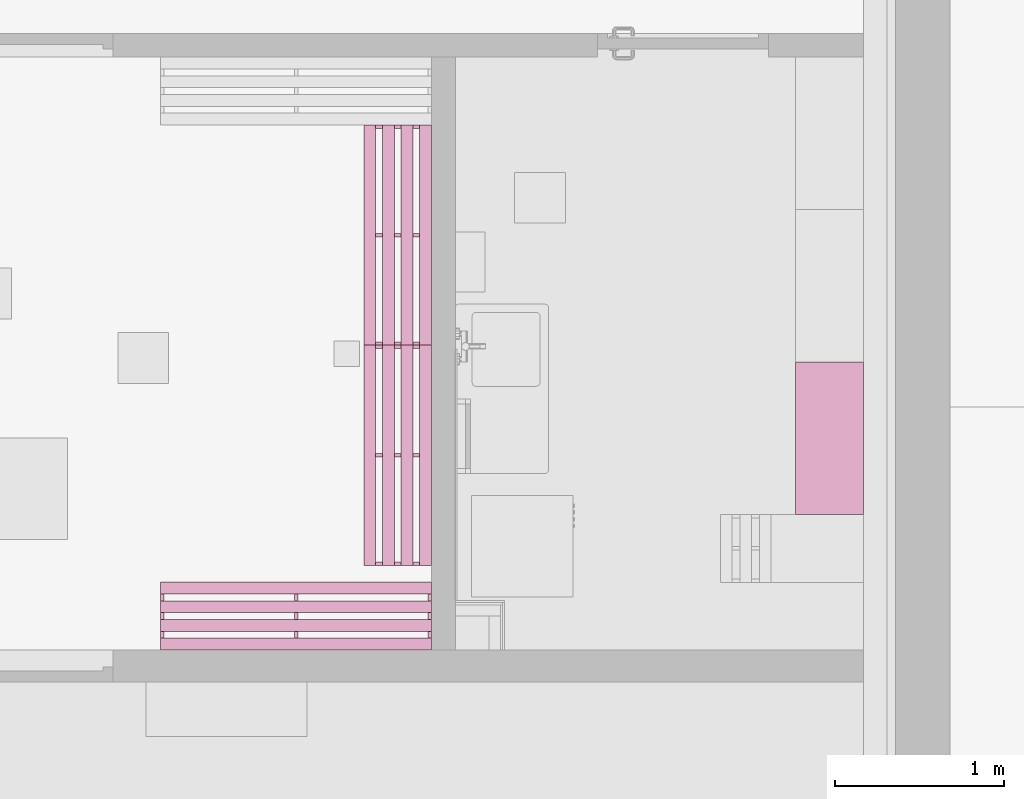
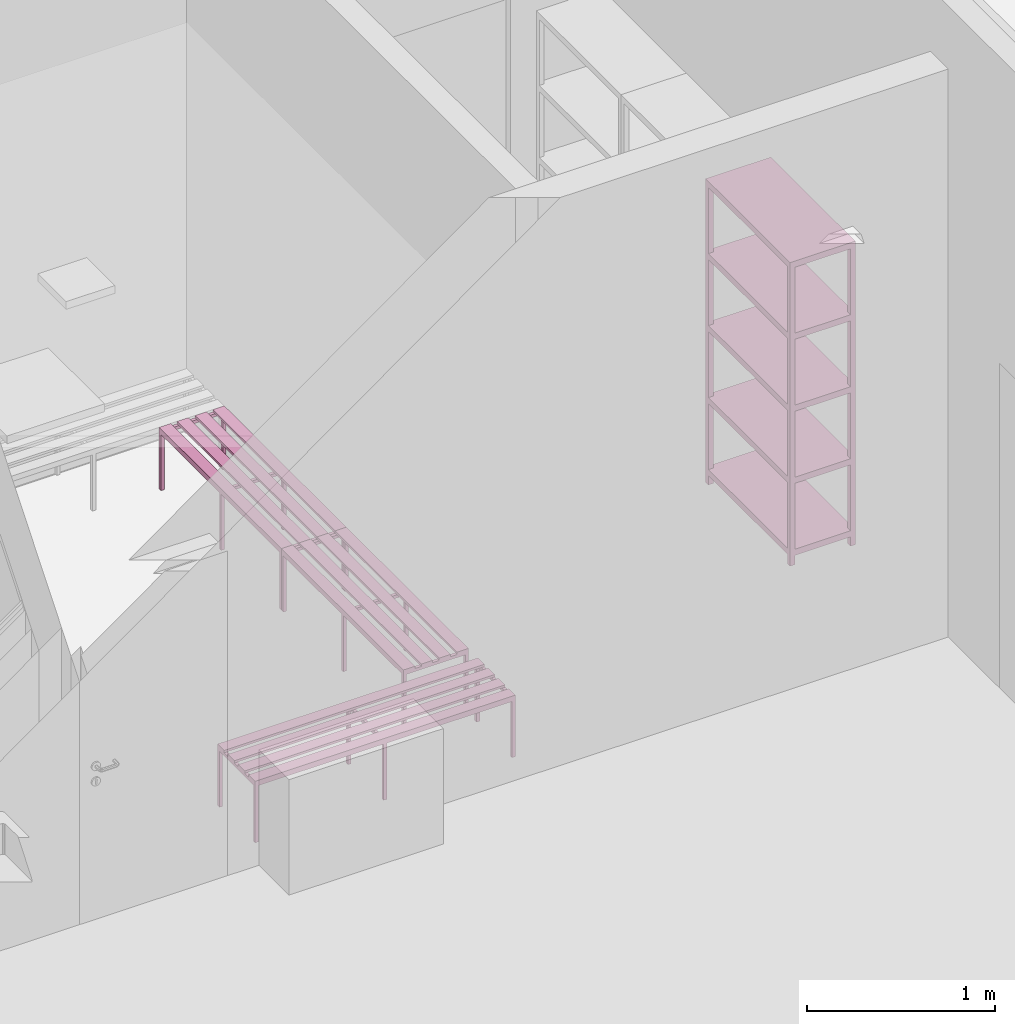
# One storey, part 278 of 301: 4 furnishings.
"""IFC2X3 building model written with IfcOpenShell, lengths in millimetres."""

from ifc_helpers import new_model, entity, si_unit, converted_unit, derived_unit, money_unit, direction, frame, origin_with_axes, place, context, subcontext, project, spatial, faceted_brep, source, transform, mapped, type_object, element, save


model = new_model("IFC2X3")

# Units and contexts
model_context = context("Model", 3, precision=0.01, world=origin_with_axes(), true_north=direction((0.0, 1.0)))
body_context = subcontext(model_context, "Body", "Model", "MODEL_VIEW")
ifc_project = project(units=[si_unit("LENGTHUNIT", "METRE", prefix="MILLI"), si_unit("AREAUNIT", "SQUARE_METRE"), si_unit("VOLUMEUNIT", "CUBIC_METRE"), converted_unit("PLANEANGLEUNIT", "DEGREE", entity("IfcPlaneAngleMeasure", 0.0174532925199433), si_unit("PLANEANGLEUNIT", "RADIAN"), dimensions=[0, 0, 0, 0, 0, 0, 0]), money_unit("EUR"), converted_unit("TIMEUNIT", "Year", entity("IfcTimeMeasure", 31557600.0), si_unit("TIMEUNIT", "SECOND"), dimensions=[0, 0, 1, 0, 0, 0, 0]), si_unit("MASSUNIT", "GRAM", prefix="KILO"), si_unit("THERMODYNAMICTEMPERATUREUNIT", "DEGREE_CELSIUS"), si_unit("LUMINOUSINTENSITYUNIT", "LUMEN"), si_unit("ENERGYUNIT", "JOULE", prefix="MEGA"), derived_unit("THERMALCONDUCTANCEUNIT", [(si_unit("POWERUNIT", "WATT"), 1), (si_unit("LENGTHUNIT", "METRE"), -1), (si_unit("THERMODYNAMICTEMPERATUREUNIT", "KELVIN"), -1)]), derived_unit("SPECIFICHEATCAPACITYUNIT", [(si_unit("ENERGYUNIT", "JOULE"), 1), (si_unit("MASSUNIT", "GRAM", prefix="KILO"), -1), (si_unit("THERMODYNAMICTEMPERATUREUNIT", "KELVIN"), -1)]), derived_unit("MASSDENSITYUNIT", [(si_unit("MASSUNIT", "GRAM", prefix="KILO"), 1), (si_unit("VOLUMEUNIT", "CUBIC_METRE"), -1)])], contexts=[model_context])

# Site, building, storey
site_placement = place(None, frame((0.0, 0.0, 8650.0), z_axis=(0.0, 0.0, 1.0), x_axis=(1.0, 0.0, 0.0)))
site = spatial("IfcSite", under=ifc_project, at=site_placement, Name="43301:001:0844", CompositionType="ELEMENT")
building_placement = place(site_placement, origin_with_axes())
building = spatial("IfcBuilding", under=site, at=building_placement, Name="Kuressaare Ametikooli tuulikute mehaanikute õppekorpus", CompositionType="ELEMENT")
storey_placement = place(building_placement, origin_with_axes())
storey = spatial("IfcBuildingStorey", under=building, at=storey_placement, Name="1.korrus", CompositionType="ELEMENT", Elevation=0.0)

# Furnishings
furniture_type_1 = type_object("IfcFurnitureType", Name="Bookshelf 02 27", AssemblyPlace="NOTDEFINED")
shared_shape_1 = source(origin_with_axes(), body_context, "Body", "Brep", [
    faceted_brep([(-30.0, 0.0, 0.0), (-30.0, 30.0, 0.0), (0.0, 30.0, 0.0), (0.0, 0.0, 0.0), (-30.0, 0.0, 1952.0), (-30.0, 30.0, 1952.0), (0.0, 30.0, 1952.0), (0.0, 0.0, 1952.0)], [[[0, 1, 2, 3]], [[0, 4, 5, 1]], [[1, 5, 6, 2]], [[2, 6, 7, 3]], [[3, 7, 4, 0]], [[7, 6, 5, 4]]]),
    faceted_brep([(-900.0000000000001, 0.0, 0.0), (-900.0000000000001, 30.0, 0.0), (-870.0000000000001, 30.0, 0.0), (-870.0000000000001, 0.0, 0.0), (-900.0000000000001, 0.0, 1952.0), (-900.0000000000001, 30.0, 1952.0), (-870.0000000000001, 30.0, 1952.0), (-870.0000000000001, 0.0, 1952.0)], [[[0, 1, 2, 3]], [[0, 4, 5, 1]], [[1, 5, 6, 2]], [[2, 6, 7, 3]], [[3, 7, 4, 0]], [[7, 6, 5, 4]]]),
    faceted_brep([(-30.0, 370.0, 0.0), (-30.0, 400.0, 0.0), (0.0, 400.0, 0.0), (0.0, 370.0, 0.0), (-30.0, 370.0, 1952.0), (-30.0, 400.0, 1952.0), (0.0, 400.0, 1952.0), (0.0, 370.0, 1952.0)], [[[0, 1, 2, 3]], [[0, 4, 5, 1]], [[1, 5, 6, 2]], [[2, 6, 7, 3]], [[3, 7, 4, 0]], [[7, 6, 5, 4]]]),
    faceted_brep([(-900.0000000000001, 370.0, 0.0), (-900.0000000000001, 400.0, 0.0), (-870.0000000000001, 400.0, 0.0), (-870.0000000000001, 370.0, 0.0), (-900.0000000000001, 370.0, 1952.0), (-900.0000000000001, 400.0, 1952.0), (-870.0000000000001, 400.0, 1952.0), (-870.0000000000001, 370.0, 1952.0)], [[[0, 1, 2, 3]], [[0, 4, 5, 1]], [[1, 5, 6, 2]], [[2, 6, 7, 3]], [[3, 7, 4, 0]], [[7, 6, 5, 4]]]),
    faceted_brep([(-30.0, 30.0, 60.0), (-30.0, 370.0, 60.0), (0.0, 370.0, 60.0), (0.0, 30.0, 60.0), (-30.0, 30.0, 80.0), (-30.0, 370.0, 80.0), (0.0, 370.0, 80.0), (0.0, 30.0, 80.0)], [[[0, 1, 2, 3]], [[0, 4, 5, 1]], [[1, 5, 6, 2]], [[2, 6, 7, 3]], [[3, 7, 4, 0]], [[7, 6, 5, 4]]]),
    faceted_brep([(-900.0000000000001, 30.0, 60.0), (-900.0000000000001, 370.0, 60.0), (-870.0000000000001, 370.0, 60.0), (-870.0000000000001, 30.0, 60.0), (-900.0000000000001, 30.0, 80.0), (-900.0000000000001, 370.0, 80.0), (-870.0000000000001, 370.0, 80.0), (-870.0000000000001, 30.0, 80.0)], [[[0, 1, 2, 3]], [[0, 4, 5, 1]], [[1, 5, 6, 2]], [[2, 6, 7, 3]], [[3, 7, 4, 0]], [[7, 6, 5, 4]]]),
    faceted_brep([(-870.0000000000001, 0.0, 60.0), (-870.0000000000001, 30.0, 60.0), (-30.0, 30.0, 60.0), (-30.0, 0.0, 60.0), (-870.0000000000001, 0.0, 80.0), (-870.0000000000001, 30.0, 80.0), (-30.0, 30.0, 80.0), (-30.0, 0.0, 80.0)], [[[0, 1, 2, 3]], [[0, 4, 5, 1]], [[1, 5, 6, 2]], [[2, 6, 7, 3]], [[3, 7, 4, 0]], [[7, 6, 5, 4]]]),
    faceted_brep([(-870.0000000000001, 370.0, 60.0), (-870.0000000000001, 400.0, 60.0), (-30.0, 400.0, 60.0), (-30.0, 370.0, 60.0), (-870.0000000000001, 370.0, 80.0), (-870.0000000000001, 400.0, 80.0), (-30.0, 400.0, 80.0), (-30.0, 370.0, 80.0)], [[[0, 1, 2, 3]], [[0, 4, 5, 1]], [[1, 5, 6, 2]], [[2, 6, 7, 3]], [[3, 7, 4, 0]], [[7, 6, 5, 4]]]),
    faceted_brep([(-30.0, 30.0, 528.0), (-30.0, 370.0, 528.0), (0.0, 370.0, 528.0), (0.0, 30.0, 528.0), (-30.0, 30.0, 548.0), (-30.0, 370.0, 548.0), (0.0, 370.0, 548.0), (0.0, 30.0, 548.0)], [[[0, 1, 2, 3]], [[0, 4, 5, 1]], [[1, 5, 6, 2]], [[2, 6, 7, 3]], [[3, 7, 4, 0]], [[7, 6, 5, 4]]]),
    faceted_brep([(-900.0000000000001, 30.0, 528.0), (-900.0000000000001, 370.0, 528.0), (-870.0000000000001, 370.0, 528.0), (-870.0000000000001, 30.0, 528.0), (-900.0000000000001, 30.0, 548.0), (-900.0000000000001, 370.0, 548.0), (-870.0000000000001, 370.0, 548.0), (-870.0000000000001, 30.0, 548.0)], [[[0, 1, 2, 3]], [[0, 4, 5, 1]], [[1, 5, 6, 2]], [[2, 6, 7, 3]], [[3, 7, 4, 0]], [[7, 6, 5, 4]]]),
    faceted_brep([(-870.0000000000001, 0.0, 528.0), (-870.0000000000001, 30.0, 528.0), (-30.0, 30.0, 528.0), (-30.0, 0.0, 528.0), (-870.0000000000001, 0.0, 548.0), (-870.0000000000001, 30.0, 548.0), (-30.0, 30.0, 548.0), (-30.0, 0.0, 548.0)], [[[0, 1, 2, 3]], [[0, 4, 5, 1]], [[1, 5, 6, 2]], [[2, 6, 7, 3]], [[3, 7, 4, 0]], [[7, 6, 5, 4]]]),
    faceted_brep([(-870.0000000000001, 370.0, 528.0), (-870.0000000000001, 400.0, 528.0), (-30.0, 400.0, 528.0), (-30.0, 370.0, 528.0), (-870.0000000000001, 370.0, 548.0), (-870.0000000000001, 400.0, 548.0), (-30.0, 400.0, 548.0), (-30.0, 370.0, 548.0)], [[[0, 1, 2, 3]], [[0, 4, 5, 1]], [[1, 5, 6, 2]], [[2, 6, 7, 3]], [[3, 7, 4, 0]], [[7, 6, 5, 4]]]),
    faceted_brep([(-30.0, 30.0, 996.0), (-30.0, 370.0, 996.0), (0.0, 370.0, 996.0), (0.0, 30.0, 996.0), (-30.0, 30.0, 1016.0), (-30.0, 370.0, 1016.0), (0.0, 370.0, 1016.0), (0.0, 30.0, 1016.0)], [[[0, 1, 2, 3]], [[0, 4, 5, 1]], [[1, 5, 6, 2]], [[2, 6, 7, 3]], [[3, 7, 4, 0]], [[7, 6, 5, 4]]]),
    faceted_brep([(-900.0000000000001, 30.0, 996.0), (-900.0000000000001, 370.0, 996.0), (-870.0000000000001, 370.0, 996.0), (-870.0000000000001, 30.0, 996.0), (-900.0000000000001, 30.0, 1016.0), (-900.0000000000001, 370.0, 1016.0), (-870.0000000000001, 370.0, 1016.0), (-870.0000000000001, 30.0, 1016.0)], [[[0, 1, 2, 3]], [[0, 4, 5, 1]], [[1, 5, 6, 2]], [[2, 6, 7, 3]], [[3, 7, 4, 0]], [[7, 6, 5, 4]]]),
    faceted_brep([(-870.0000000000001, 0.0, 996.0), (-870.0000000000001, 30.0, 996.0), (-30.0, 30.0, 996.0), (-30.0, 0.0, 996.0), (-870.0000000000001, 0.0, 1016.0), (-870.0000000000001, 30.0, 1016.0), (-30.0, 30.0, 1016.0), (-30.0, 0.0, 1016.0)], [[[0, 1, 2, 3]], [[0, 4, 5, 1]], [[1, 5, 6, 2]], [[2, 6, 7, 3]], [[3, 7, 4, 0]], [[7, 6, 5, 4]]]),
    faceted_brep([(-870.0000000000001, 370.0, 996.0), (-870.0000000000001, 400.0, 996.0), (-30.0, 400.0, 996.0), (-30.0, 370.0, 996.0), (-870.0000000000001, 370.0, 1016.0), (-870.0000000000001, 400.0, 1016.0), (-30.0, 400.0, 1016.0), (-30.0, 370.0, 1016.0)], [[[0, 1, 2, 3]], [[0, 4, 5, 1]], [[1, 5, 6, 2]], [[2, 6, 7, 3]], [[3, 7, 4, 0]], [[7, 6, 5, 4]]]),
    faceted_brep([(-30.0, 30.0, 1464.0), (-30.0, 370.0, 1464.0), (0.0, 370.0, 1464.0), (0.0, 30.0, 1464.0), (-30.0, 30.0, 1484.0), (-30.0, 370.0, 1484.0), (0.0, 370.0, 1484.0), (0.0, 30.0, 1484.0)], [[[0, 1, 2, 3]], [[0, 4, 5, 1]], [[1, 5, 6, 2]], [[2, 6, 7, 3]], [[3, 7, 4, 0]], [[7, 6, 5, 4]]]),
    faceted_brep([(-900.0000000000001, 30.0, 1464.0), (-900.0000000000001, 370.0, 1464.0), (-870.0000000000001, 370.0, 1464.0), (-870.0000000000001, 30.0, 1464.0), (-900.0000000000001, 30.0, 1484.0), (-900.0000000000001, 370.0, 1484.0), (-870.0000000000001, 370.0, 1484.0), (-870.0000000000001, 30.0, 1484.0)], [[[0, 1, 2, 3]], [[0, 4, 5, 1]], [[1, 5, 6, 2]], [[2, 6, 7, 3]], [[3, 7, 4, 0]], [[7, 6, 5, 4]]]),
    faceted_brep([(-870.0000000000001, 0.0, 1464.0), (-870.0000000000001, 30.0, 1464.0), (-30.0, 30.0, 1464.0), (-30.0, 0.0, 1464.0), (-870.0000000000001, 0.0, 1484.0), (-870.0000000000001, 30.0, 1484.0), (-30.0, 30.0, 1484.0), (-30.0, 0.0, 1484.0)], [[[0, 1, 2, 3]], [[0, 4, 5, 1]], [[1, 5, 6, 2]], [[2, 6, 7, 3]], [[3, 7, 4, 0]], [[7, 6, 5, 4]]]),
    faceted_brep([(-870.0000000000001, 370.0, 1464.0), (-870.0000000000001, 400.0, 1464.0), (-30.0, 400.0, 1464.0), (-30.0, 370.0, 1464.0), (-870.0000000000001, 370.0, 1484.0), (-870.0000000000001, 400.0, 1484.0), (-30.0, 400.0, 1484.0), (-30.0, 370.0, 1484.0)], [[[0, 1, 2, 3]], [[0, 4, 5, 1]], [[1, 5, 6, 2]], [[2, 6, 7, 3]], [[3, 7, 4, 0]], [[7, 6, 5, 4]]]),
    faceted_brep([(-30.0, 30.0, 1932.0), (-30.0, 370.0, 1932.0), (0.0, 370.0, 1932.0), (0.0, 30.0, 1932.0), (-30.0, 30.0, 1952.0), (-30.0, 370.0, 1952.0), (0.0, 370.0, 1952.0), (0.0, 30.0, 1952.0)], [[[0, 1, 2, 3]], [[0, 4, 5, 1]], [[1, 5, 6, 2]], [[2, 6, 7, 3]], [[3, 7, 4, 0]], [[7, 6, 5, 4]]]),
    faceted_brep([(-900.0000000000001, 30.0, 1932.0), (-900.0000000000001, 370.0, 1932.0), (-870.0000000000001, 370.0, 1932.0), (-870.0000000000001, 30.0, 1932.0), (-900.0000000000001, 30.0, 1952.0), (-900.0000000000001, 370.0, 1952.0), (-870.0000000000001, 370.0, 1952.0), (-870.0000000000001, 30.0, 1952.0)], [[[0, 1, 2, 3]], [[0, 4, 5, 1]], [[1, 5, 6, 2]], [[2, 6, 7, 3]], [[3, 7, 4, 0]], [[7, 6, 5, 4]]]),
    faceted_brep([(-870.0000000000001, 0.0, 1932.0), (-870.0000000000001, 30.0, 1932.0), (-30.0, 30.0, 1932.0), (-30.0, 0.0, 1932.0), (-870.0000000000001, 0.0, 1952.0), (-870.0000000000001, 30.0, 1952.0), (-30.0, 30.0, 1952.0), (-30.0, 0.0, 1952.0)], [[[0, 1, 2, 3]], [[0, 4, 5, 1]], [[1, 5, 6, 2]], [[2, 6, 7, 3]], [[3, 7, 4, 0]], [[7, 6, 5, 4]]]),
    faceted_brep([(-870.0000000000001, 370.0, 1932.0), (-870.0000000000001, 400.0, 1932.0), (-30.0, 400.0, 1932.0), (-30.0, 370.0, 1932.0), (-870.0000000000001, 370.0, 1952.0), (-870.0000000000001, 400.0, 1952.0), (-30.0, 400.0, 1952.0), (-30.0, 370.0, 1952.0)], [[[0, 1, 2, 3]], [[0, 4, 5, 1]], [[1, 5, 6, 2]], [[2, 6, 7, 3]], [[3, 7, 4, 0]], [[7, 6, 5, 4]]]),
    faceted_brep([(-900.0, 0.0, 1952.0), (-900.0, 400.0, 1952.0), (0.0, 400.0, 1952.0), (0.0, 0.0, 1952.0), (-900.0, 0.0, 1972.0), (-900.0, 400.0, 1972.0), (0.0, 400.0, 1972.0), (0.0, 0.0, 1972.0)], [[[0, 1, 2, 3]], [[0, 4, 5, 1]], [[1, 5, 6, 2]], [[2, 6, 7, 3]], [[3, 7, 4, 0]], [[7, 6, 5, 4]]]),
    faceted_brep([(0.0, 30.0, 80.0), (0.0, 30.0, 100.0), (-30.0, 30.0, 100.0), (-30.0, 30.0, 80.0), (0.0, 370.0, 80.0), (0.0, 370.0, 100.0), (-30.0, 370.0, 100.0), (-30.0, 400.0, 100.0), (-870.0, 400.0, 100.0), (-870.0, 370.0, 100.0), (-900.0, 370.0, 100.0), (-900.0, 30.0, 100.0), (-870.0, 30.0, 100.0), (-870.0, 0.0, 100.0), (-30.0, 0.0, 100.0), (-30.0, 0.0, 80.0), (-870.0, 0.0, 80.0), (-870.0, 30.0, 80.0), (-900.0, 30.0, 80.0), (-900.0, 370.0, 80.0), (-870.0, 370.0, 80.0), (-870.0, 400.0, 80.0), (-30.0, 400.0, 80.0), (-30.0, 370.0, 80.0)], [[[0, 1, 2, 3]], [[4, 5, 1, 0]], [[1, 5, 6, 7, 8, 9, 10, 11, 12, 13, 14, 2]], [[3, 2, 14, 15]], [[0, 3, 15, 16, 17, 18, 19, 20, 21, 22, 23, 4]], [[23, 6, 5, 4]], [[22, 7, 6, 23]], [[21, 8, 7, 22]], [[20, 9, 8, 21]], [[19, 10, 9, 20]], [[18, 11, 10, 19]], [[17, 12, 11, 18]], [[16, 13, 12, 17]], [[15, 14, 13, 16]]]),
    faceted_brep([(0.0, 30.0, 547.9999999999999), (0.0, 30.0, 568.0), (-30.0, 30.0, 568.0), (-30.0, 30.0, 547.9999999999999), (0.0, 370.0, 547.9999999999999), (0.0, 370.0, 568.0), (-30.0, 370.0, 568.0), (-30.0, 400.0, 568.0), (-870.0, 400.0, 568.0), (-870.0, 370.0, 568.0), (-900.0, 370.0, 568.0), (-900.0, 30.0, 568.0), (-870.0, 30.0, 568.0), (-870.0, 0.0, 568.0), (-30.0, 0.0, 568.0), (-30.0, 0.0, 547.9999999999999), (-870.0, 0.0, 547.9999999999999), (-870.0, 30.0, 547.9999999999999), (-900.0, 30.0, 547.9999999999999), (-900.0, 370.0, 547.9999999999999), (-870.0, 370.0, 547.9999999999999), (-870.0, 400.0, 547.9999999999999), (-30.0, 400.0, 547.9999999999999), (-30.0, 370.0, 547.9999999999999)], [[[0, 1, 2, 3]], [[4, 5, 1, 0]], [[1, 5, 6, 7, 8, 9, 10, 11, 12, 13, 14, 2]], [[3, 2, 14, 15]], [[0, 3, 15, 16, 17, 18, 19, 20, 21, 22, 23, 4]], [[23, 6, 5, 4]], [[22, 7, 6, 23]], [[21, 8, 7, 22]], [[20, 9, 8, 21]], [[19, 10, 9, 20]], [[18, 11, 10, 19]], [[17, 12, 11, 18]], [[16, 13, 12, 17]], [[15, 14, 13, 16]]]),
    faceted_brep([(0.0, 30.0, 1016.0), (0.0, 30.0, 1036.0), (-30.0, 30.0, 1036.0), (-30.0, 30.0, 1016.0), (0.0, 370.0, 1016.0), (0.0, 370.0, 1036.0), (-30.0, 370.0, 1036.0), (-30.0, 400.0, 1036.0), (-870.0, 400.0, 1036.0), (-870.0, 370.0, 1036.0), (-900.0, 370.0, 1036.0), (-900.0, 30.0, 1036.0), (-870.0, 30.0, 1036.0), (-870.0, 0.0, 1036.0), (-30.0, 0.0, 1036.0), (-30.0, 0.0, 1016.0), (-870.0, 0.0, 1016.0), (-870.0, 30.0, 1016.0), (-900.0, 30.0, 1016.0), (-900.0, 370.0, 1016.0), (-870.0, 370.0, 1016.0), (-870.0, 400.0, 1016.0), (-30.0, 400.0, 1016.0), (-30.0, 370.0, 1016.0)], [[[0, 1, 2, 3]], [[4, 5, 1, 0]], [[1, 5, 6, 7, 8, 9, 10, 11, 12, 13, 14, 2]], [[3, 2, 14, 15]], [[0, 3, 15, 16, 17, 18, 19, 20, 21, 22, 23, 4]], [[23, 6, 5, 4]], [[22, 7, 6, 23]], [[21, 8, 7, 22]], [[20, 9, 8, 21]], [[19, 10, 9, 20]], [[18, 11, 10, 19]], [[17, 12, 11, 18]], [[16, 13, 12, 17]], [[15, 14, 13, 16]]]),
    faceted_brep([(0.0, 30.0, 1484.0), (0.0, 30.0, 1504.0), (-30.0, 30.0, 1504.0), (-30.0, 30.0, 1484.0), (0.0, 370.0, 1484.0), (0.0, 370.0, 1504.0), (-30.0, 370.0, 1504.0), (-30.0, 400.0, 1504.0), (-870.0, 400.0, 1504.0), (-870.0, 370.0, 1504.0), (-900.0, 370.0, 1504.0), (-900.0, 30.0, 1504.0), (-870.0, 30.0, 1504.0), (-870.0, 0.0, 1504.0), (-30.0, 0.0, 1504.0), (-30.0, 0.0, 1484.0), (-870.0, 0.0, 1484.0), (-870.0, 30.0, 1484.0), (-900.0, 30.0, 1484.0), (-900.0, 370.0, 1484.0), (-870.0, 370.0, 1484.0), (-870.0, 400.0, 1484.0), (-30.0, 400.0, 1484.0), (-30.0, 370.0, 1484.0)], [[[0, 1, 2, 3]], [[4, 5, 1, 0]], [[1, 5, 6, 7, 8, 9, 10, 11, 12, 13, 14, 2]], [[3, 2, 14, 15]], [[0, 3, 15, 16, 17, 18, 19, 20, 21, 22, 23, 4]], [[23, 6, 5, 4]], [[22, 7, 6, 23]], [[21, 8, 7, 22]], [[20, 9, 8, 21]], [[19, 10, 9, 20]], [[18, 11, 10, 19]], [[17, 12, 11, 18]], [[16, 13, 12, 17]], [[15, 14, 13, 16]]]),
])
furnishing_1_placement = place(storey_placement, frame((133024.9464416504, 21774.06892395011, 0.0), z_axis=(0.0, 0.0, 1.0), x_axis=(0.0, 1.0, 0.0)))
element("IfcFurnishingElement", 1, at=furnishing_1_placement, inside=storey, type_object=furniture_type_1, Name="R49", context=body_context, shape_type="MappedRepresentation", body=[
    mapped(shared_shape_1, transform((0.0, 0.0, 0.0))),
])
furniture_type_2 = type_object("IfcFurnitureType", Name="Bench 27", AssemblyPlace="NOTDEFINED")
shared_shape_2 = source(origin_with_axes(), body_context, "Body", "Brep", [
    faceted_brep([(20.0, 0.0, 0.0), (0.0, 0.0, 0.0), (0.0, 20.0, 0.0), (20.0, 20.0, 0.0), (20.0, 0.0, 385.0), (0.0, 0.0, 385.0), (0.0, 20.0, 385.0), (20.0, 20.0, 385.0)], [[[0, 1, 2, 3]], [[1, 0, 4, 5]], [[2, 1, 5, 6]], [[3, 2, 6, 7]], [[0, 3, 7, 4]], [[5, 4, 7, 6]]]),
    faceted_brep([(20.0, 380.0, 0.0), (0.0, 380.0, 0.0), (0.0, 400.0, 0.0), (20.0, 400.0, 0.0), (20.0, 380.0, 385.0), (0.0, 380.0, 385.0), (0.0, 400.0, 385.0), (20.0, 400.0, 385.0)], [[[0, 1, 2, 3]], [[1, 0, 4, 5]], [[2, 1, 5, 6]], [[3, 2, 6, 7]], [[0, 3, 7, 4]], [[5, 4, 7, 6]]]),
    faceted_brep([(1600.000000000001, 0.0, 0.0), (1580.000000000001, 0.0, 0.0), (1580.000000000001, 20.0, 0.0), (1600.000000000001, 20.0, 0.0), (1600.000000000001, 0.0, 385.0), (1580.000000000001, 0.0, 385.0), (1580.000000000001, 20.0, 385.0), (1600.000000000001, 20.0, 385.0)], [[[0, 1, 2, 3]], [[1, 0, 4, 5]], [[2, 1, 5, 6]], [[3, 2, 6, 7]], [[0, 3, 7, 4]], [[5, 4, 7, 6]]]),
    faceted_brep([(1600.000000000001, 380.0, 0.0), (1580.000000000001, 380.0, 0.0), (1580.000000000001, 400.0, 0.0), (1600.000000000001, 400.0, 0.0), (1600.000000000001, 380.0, 385.0), (1580.000000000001, 380.0, 385.0), (1580.000000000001, 400.0, 385.0), (1600.000000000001, 400.0, 385.0)], [[[0, 1, 2, 3]], [[1, 0, 4, 5]], [[2, 1, 5, 6]], [[3, 2, 6, 7]], [[0, 3, 7, 4]], [[5, 4, 7, 6]]]),
    faceted_brep([(810.0000000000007, 0.0, 0.0), (790.0000000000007, 0.0, 0.0), (790.0000000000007, 20.0, 0.0), (810.0000000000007, 20.0, 0.0), (810.0000000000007, 0.0, 385.0), (790.0000000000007, 0.0, 385.0), (790.0000000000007, 20.0, 385.0), (810.0000000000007, 20.0, 385.0)], [[[0, 1, 2, 3]], [[1, 0, 4, 5]], [[2, 1, 5, 6]], [[3, 2, 6, 7]], [[0, 3, 7, 4]], [[5, 4, 7, 6]]]),
    faceted_brep([(810.0000000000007, 380.0, 0.0), (790.0000000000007, 380.0, 0.0), (790.0000000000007, 400.0, 0.0), (810.0000000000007, 400.0, 0.0), (810.0000000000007, 380.0, 385.0), (790.0000000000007, 380.0, 385.0), (790.0000000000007, 400.0, 385.0), (810.0000000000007, 400.0, 385.0)], [[[0, 1, 2, 3]], [[1, 0, 4, 5]], [[2, 1, 5, 6]], [[3, 2, 6, 7]], [[0, 3, 7, 4]], [[5, 4, 7, 6]]]),
    faceted_brep([(790.0000000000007, 0.0, 365.0000000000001), (20.0, 0.0, 365.0000000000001), (20.0, 20.0, 365.0000000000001), (790.0000000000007, 20.0, 365.0000000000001), (790.0000000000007, 0.0, 385.0000000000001), (20.0, 0.0, 385.0000000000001), (20.0, 20.0, 385.0000000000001), (790.0000000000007, 20.0, 385.0000000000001)], [[[0, 1, 2, 3]], [[1, 0, 4, 5]], [[2, 1, 5, 6]], [[3, 2, 6, 7]], [[0, 3, 7, 4]], [[5, 4, 7, 6]]]),
    faceted_brep([(1580.000000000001, 0.0, 365.0000000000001), (810.0000000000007, 0.0, 365.0000000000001), (810.0000000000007, 20.0, 365.0000000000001), (1580.000000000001, 20.0, 365.0000000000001), (1580.000000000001, 0.0, 385.0000000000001), (810.0000000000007, 0.0, 385.0000000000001), (810.0000000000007, 20.0, 385.0000000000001), (1580.000000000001, 20.0, 385.0000000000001)], [[[0, 1, 2, 3]], [[1, 0, 4, 5]], [[2, 1, 5, 6]], [[3, 2, 6, 7]], [[0, 3, 7, 4]], [[5, 4, 7, 6]]]),
    faceted_brep([(790.0000000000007, 380.0, 365.0000000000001), (20.0, 380.0, 365.0000000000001), (20.0, 400.0, 365.0000000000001), (790.0000000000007, 400.0, 365.0000000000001), (790.0000000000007, 380.0, 385.0000000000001), (20.0, 380.0, 385.0000000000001), (20.0, 400.0, 385.0000000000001), (790.0000000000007, 400.0, 385.0000000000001)], [[[0, 1, 2, 3]], [[1, 0, 4, 5]], [[2, 1, 5, 6]], [[3, 2, 6, 7]], [[0, 3, 7, 4]], [[5, 4, 7, 6]]]),
    faceted_brep([(1580.000000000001, 380.0, 365.0000000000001), (810.0000000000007, 380.0, 365.0000000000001), (810.0000000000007, 400.0, 365.0000000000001), (1580.000000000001, 400.0, 365.0000000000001), (1580.000000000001, 380.0, 385.0000000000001), (810.0000000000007, 380.0, 385.0000000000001), (810.0000000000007, 400.0, 385.0000000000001), (1580.000000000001, 400.0, 385.0000000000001)], [[[0, 1, 2, 3]], [[1, 0, 4, 5]], [[2, 1, 5, 6]], [[3, 2, 6, 7]], [[0, 3, 7, 4]], [[5, 4, 7, 6]]]),
    faceted_brep([(20.0, 20.0, 365.0000000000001), (0.0, 20.0, 365.0000000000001), (0.0, 380.0000000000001, 365.0000000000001), (20.0, 380.0000000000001, 365.0000000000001), (20.0, 20.0, 385.0000000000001), (0.0, 20.0, 385.0000000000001), (0.0, 380.0000000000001, 385.0000000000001), (20.0, 380.0000000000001, 385.0000000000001)], [[[0, 1, 2, 3]], [[1, 0, 4, 5]], [[2, 1, 5, 6]], [[3, 2, 6, 7]], [[0, 3, 7, 4]], [[5, 4, 7, 6]]]),
    faceted_brep([(810.0000000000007, 20.0, 365.0000000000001), (790.0000000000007, 20.0, 365.0000000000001), (790.0000000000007, 380.0000000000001, 365.0000000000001), (810.0000000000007, 380.0000000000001, 365.0000000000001), (810.0000000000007, 20.0, 385.0000000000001), (790.0000000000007, 20.0, 385.0000000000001), (790.0000000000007, 380.0000000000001, 385.0000000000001), (810.0000000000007, 380.0000000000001, 385.0000000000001)], [[[0, 1, 2, 3]], [[1, 0, 4, 5]], [[2, 1, 5, 6]], [[3, 2, 6, 7]], [[0, 3, 7, 4]], [[5, 4, 7, 6]]]),
    faceted_brep([(1600.000000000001, 20.0, 365.0000000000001), (1580.000000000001, 20.0, 365.0000000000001), (1580.000000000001, 380.0000000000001, 365.0000000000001), (1600.000000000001, 380.0000000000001, 365.0000000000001), (1600.000000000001, 20.0, 385.0000000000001), (1580.000000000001, 20.0, 385.0000000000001), (1580.000000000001, 380.0000000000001, 385.0000000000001), (1600.000000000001, 380.0000000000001, 385.0000000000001)], [[[0, 1, 2, 3]], [[1, 0, 4, 5]], [[2, 1, 5, 6]], [[3, 2, 6, 7]], [[0, 3, 7, 4]], [[5, 4, 7, 6]]]),
    faceted_brep([(0.0, 330.0, 385.0), (1600.000000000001, 330.0, 385.0), (1600.000000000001, 330.0, 400.0), (0.0, 330.0, 400.0), (0.0, 400.0, 385.0), (1600.000000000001, 400.0, 385.0), (1600.000000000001, 400.0, 400.0), (0.0, 400.0, 400.0)], [[[0, 1, 2, 3]], [[0, 4, 5, 1]], [[1, 5, 6, 2]], [[3, 2, 6, 7]], [[4, 0, 3, 7]], [[5, 4, 7, 6]]]),
    faceted_brep([(1600.000000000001, 0.0, 385.0), (0.0, 0.0, 385.0), (0.0, 70.0, 385.0), (1600.000000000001, 70.0, 385.0), (1600.000000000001, 0.0, 400.0), (0.0, 0.0, 400.0), (0.0, 70.0, 400.0), (1600.000000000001, 70.0, 400.0)], [[[0, 1, 2, 3]], [[1, 0, 4, 5]], [[2, 1, 5, 6]], [[3, 2, 6, 7]], [[0, 3, 7, 4]], [[5, 4, 7, 6]]]),
    faceted_brep([(1600.000000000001, 110.0, 385.0), (0.0, 110.0, 385.0), (0.0, 180.0, 385.0), (1600.000000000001, 180.0, 385.0), (1600.000000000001, 110.0, 400.0), (0.0, 110.0, 400.0), (0.0, 180.0, 400.0), (1600.000000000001, 180.0, 400.0)], [[[0, 1, 2, 3]], [[1, 0, 4, 5]], [[2, 1, 5, 6]], [[3, 2, 6, 7]], [[0, 3, 7, 4]], [[5, 4, 7, 6]]]),
    faceted_brep([(1600.000000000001, 220.0, 385.0), (0.0, 220.0, 385.0), (0.0, 290.0000000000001, 385.0), (1600.000000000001, 290.0000000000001, 385.0), (1600.000000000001, 220.0, 400.0), (0.0, 220.0, 400.0), (0.0, 290.0000000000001, 400.0), (1600.000000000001, 290.0000000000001, 400.0)], [[[0, 1, 2, 3]], [[1, 0, 4, 5]], [[2, 1, 5, 6]], [[3, 2, 6, 7]], [[0, 3, 7, 4]], [[5, 4, 7, 6]]]),
])
furnishing_2_placement = place(storey_placement, frame((128874.9464826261, 20074.46984143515, 0.0), z_axis=(0.0, 0.0, 1.0), x_axis=(1.0, 0.0, 0.0)))
element("IfcFurnishingElement", 2, at=furnishing_2_placement, inside=storey, type_object=furniture_type_2, Name="PI1", context=body_context, shape_type="MappedRepresentation", body=[
    mapped(shared_shape_2, transform((0.0, 0.0, 0.0))),
])
shared_shape_3 = source(origin_with_axes(), body_context, "Body", "Brep", [
    faceted_brep([(-20.0, 0.0, 0.0), (-20.0, 20.0, 0.0), (0.0, 20.0, 0.0), (0.0, 0.0, 0.0), (-20.0, 0.0, 385.0), (-20.0, 20.0, 385.0), (0.0, 20.0, 385.0), (0.0, 0.0, 385.0)], [[[0, 1, 2, 3]], [[0, 4, 5, 1]], [[1, 5, 6, 2]], [[2, 6, 7, 3]], [[3, 7, 4, 0]], [[7, 6, 5, 4]]]),
    faceted_brep([(-20.0, 380.0, 0.0), (-20.0, 400.0, 0.0), (0.0, 400.0, 0.0), (0.0, 380.0, 0.0), (-20.0, 380.0, 385.0), (-20.0, 400.0, 385.0), (0.0, 400.0, 385.0), (0.0, 380.0, 385.0)], [[[0, 1, 2, 3]], [[0, 4, 5, 1]], [[1, 5, 6, 2]], [[2, 6, 7, 3]], [[3, 7, 4, 0]], [[7, 6, 5, 4]]]),
    faceted_brep([(-1300.0, 0.0, 0.0), (-1300.0, 20.0, 0.0), (-1280.0, 20.0, 0.0), (-1280.0, 0.0, 0.0), (-1300.0, 0.0, 385.0), (-1300.0, 20.0, 385.0), (-1280.0, 20.0, 385.0), (-1280.0, 0.0, 385.0)], [[[0, 1, 2, 3]], [[0, 4, 5, 1]], [[1, 5, 6, 2]], [[2, 6, 7, 3]], [[3, 7, 4, 0]], [[7, 6, 5, 4]]]),
    faceted_brep([(-1300.0, 380.0, 0.0), (-1300.0, 400.0, 0.0), (-1280.0, 400.0, 0.0), (-1280.0, 380.0, 0.0), (-1300.0, 380.0, 385.0), (-1300.0, 400.0, 385.0), (-1280.0, 400.0, 385.0), (-1280.0, 380.0, 385.0)], [[[0, 1, 2, 3]], [[0, 4, 5, 1]], [[1, 5, 6, 2]], [[2, 6, 7, 3]], [[3, 7, 4, 0]], [[7, 6, 5, 4]]]),
    faceted_brep([(-660.0, 0.0, 0.0), (-660.0, 20.0, 0.0), (-640.0, 20.0, 0.0), (-640.0, 0.0, 0.0), (-660.0, 0.0, 385.0), (-660.0, 20.0, 385.0), (-640.0, 20.0, 385.0), (-640.0, 0.0, 385.0)], [[[0, 1, 2, 3]], [[0, 4, 5, 1]], [[1, 5, 6, 2]], [[2, 6, 7, 3]], [[3, 7, 4, 0]], [[7, 6, 5, 4]]]),
    faceted_brep([(-660.0, 380.0, 0.0), (-660.0, 400.0, 0.0), (-640.0, 400.0, 0.0), (-640.0, 380.0, 0.0), (-660.0, 380.0, 385.0), (-660.0, 400.0, 385.0), (-640.0, 400.0, 385.0), (-640.0, 380.0, 385.0)], [[[0, 1, 2, 3]], [[0, 4, 5, 1]], [[1, 5, 6, 2]], [[2, 6, 7, 3]], [[3, 7, 4, 0]], [[7, 6, 5, 4]]]),
    faceted_brep([(-640.0, 0.0, 365.0000000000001), (-640.0, 20.0, 365.0000000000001), (-20.0, 20.0, 365.0000000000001), (-20.0, 0.0, 365.0000000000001), (-640.0, 0.0, 385.0000000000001), (-640.0, 20.0, 385.0000000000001), (-20.0, 20.0, 385.0000000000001), (-20.0, 0.0, 385.0000000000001)], [[[0, 1, 2, 3]], [[0, 4, 5, 1]], [[1, 5, 6, 2]], [[2, 6, 7, 3]], [[3, 7, 4, 0]], [[7, 6, 5, 4]]]),
    faceted_brep([(-1280.0, 0.0, 365.0000000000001), (-1280.0, 20.0, 365.0000000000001), (-660.0, 20.0, 365.0000000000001), (-660.0, 0.0, 365.0000000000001), (-1280.0, 0.0, 385.0000000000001), (-1280.0, 20.0, 385.0000000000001), (-660.0, 20.0, 385.0000000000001), (-660.0, 0.0, 385.0000000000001)], [[[0, 1, 2, 3]], [[0, 4, 5, 1]], [[1, 5, 6, 2]], [[2, 6, 7, 3]], [[3, 7, 4, 0]], [[7, 6, 5, 4]]]),
    faceted_brep([(-640.0, 380.0, 365.0000000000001), (-640.0, 400.0, 365.0000000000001), (-20.0, 400.0, 365.0000000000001), (-20.0, 380.0, 365.0000000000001), (-640.0, 380.0, 385.0000000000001), (-640.0, 400.0, 385.0000000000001), (-20.0, 400.0, 385.0000000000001), (-20.0, 380.0, 385.0000000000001)], [[[0, 1, 2, 3]], [[0, 4, 5, 1]], [[1, 5, 6, 2]], [[2, 6, 7, 3]], [[3, 7, 4, 0]], [[7, 6, 5, 4]]]),
    faceted_brep([(-1280.0, 380.0, 365.0000000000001), (-1280.0, 400.0, 365.0000000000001), (-660.0, 400.0, 365.0000000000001), (-660.0, 380.0, 365.0000000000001), (-1280.0, 380.0, 385.0000000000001), (-1280.0, 400.0, 385.0000000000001), (-660.0, 400.0, 385.0000000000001), (-660.0, 380.0, 385.0000000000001)], [[[0, 1, 2, 3]], [[0, 4, 5, 1]], [[1, 5, 6, 2]], [[2, 6, 7, 3]], [[3, 7, 4, 0]], [[7, 6, 5, 4]]]),
    faceted_brep([(-20.0, 20.0, 365.0000000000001), (-20.0, 380.0000000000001, 365.0000000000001), (0.0, 380.0000000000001, 365.0000000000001), (0.0, 20.0, 365.0000000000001), (-20.0, 20.0, 385.0000000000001), (-20.0, 380.0000000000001, 385.0000000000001), (0.0, 380.0000000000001, 385.0000000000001), (0.0, 20.0, 385.0000000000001)], [[[0, 1, 2, 3]], [[0, 4, 5, 1]], [[1, 5, 6, 2]], [[2, 6, 7, 3]], [[3, 7, 4, 0]], [[7, 6, 5, 4]]]),
    faceted_brep([(-660.0, 20.0, 365.0000000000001), (-660.0, 380.0000000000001, 365.0000000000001), (-640.0, 380.0000000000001, 365.0000000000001), (-640.0, 20.0, 365.0000000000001), (-660.0, 20.0, 385.0000000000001), (-660.0, 380.0000000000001, 385.0000000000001), (-640.0, 380.0000000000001, 385.0000000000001), (-640.0, 20.0, 385.0000000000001)], [[[0, 1, 2, 3]], [[0, 4, 5, 1]], [[1, 5, 6, 2]], [[2, 6, 7, 3]], [[3, 7, 4, 0]], [[7, 6, 5, 4]]]),
    faceted_brep([(-1300.0, 20.0, 365.0000000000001), (-1300.0, 380.0000000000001, 365.0000000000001), (-1280.0, 380.0000000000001, 365.0000000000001), (-1280.0, 20.0, 365.0000000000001), (-1300.0, 20.0, 385.0000000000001), (-1300.0, 380.0000000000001, 385.0000000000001), (-1280.0, 380.0000000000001, 385.0000000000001), (-1280.0, 20.0, 385.0000000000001)], [[[0, 1, 2, 3]], [[0, 4, 5, 1]], [[1, 5, 6, 2]], [[2, 6, 7, 3]], [[3, 7, 4, 0]], [[7, 6, 5, 4]]]),
    faceted_brep([(0.0, 330.0, 385.0), (0.0, 330.0, 400.0), (-1300.0, 330.0, 400.0), (-1300.0, 330.0, 385.0), (0.0, 400.0, 385.0), (0.0, 400.0, 400.0), (-1300.0, 400.0, 400.0), (-1300.0, 400.0, 385.0)], [[[0, 1, 2, 3]], [[4, 5, 1, 0]], [[1, 5, 6, 2]], [[3, 2, 6, 7]], [[0, 3, 7, 4]], [[7, 6, 5, 4]]]),
    faceted_brep([(-1300.0, 0.0, 385.0), (-1300.0, 70.0, 385.0), (0.0, 70.0, 385.0), (0.0, 0.0, 385.0), (-1300.0, 0.0, 400.0), (-1300.0, 70.0, 400.0), (0.0, 70.0, 400.0), (0.0, 0.0, 400.0)], [[[0, 1, 2, 3]], [[0, 4, 5, 1]], [[1, 5, 6, 2]], [[2, 6, 7, 3]], [[3, 7, 4, 0]], [[7, 6, 5, 4]]]),
    faceted_brep([(-1300.0, 110.0, 385.0), (-1300.0, 180.0, 385.0), (0.0, 180.0, 385.0), (0.0, 110.0, 385.0), (-1300.0, 110.0, 400.0), (-1300.0, 180.0, 400.0), (0.0, 180.0, 400.0), (0.0, 110.0, 400.0)], [[[0, 1, 2, 3]], [[0, 4, 5, 1]], [[1, 5, 6, 2]], [[2, 6, 7, 3]], [[3, 7, 4, 0]], [[7, 6, 5, 4]]]),
    faceted_brep([(-1300.0, 220.0, 385.0), (-1300.0, 290.0000000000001, 385.0), (0.0, 290.0000000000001, 385.0), (0.0, 220.0, 385.0), (-1300.0, 220.0, 400.0), (-1300.0, 290.0000000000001, 400.0), (0.0, 290.0000000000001, 400.0), (0.0, 220.0, 400.0)], [[[0, 1, 2, 3]], [[0, 4, 5, 1]], [[1, 5, 6, 2]], [[2, 6, 7, 3]], [[3, 7, 4, 0]], [[7, 6, 5, 4]]]),
])
for number, where, z_axis, x_axis, name in (
    (3, (130474.9464826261, 23174.0689239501, 0.0), (0.0, 0.0, 1.0), (0.0, 1.0, 0.0), "PI1.1"),
    (4, (130474.9464826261, 21874.0689239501, 0.0), (0.0, 0.0, 1.0), (0.0, 1.0, 0.0), "PI1.1"),
):
    element("IfcFurnishingElement", number, at=place(storey_placement, frame(where, z_axis=z_axis, x_axis=x_axis)), inside=storey, type_object=furniture_type_2, Name=name, context=body_context, shape_type="MappedRepresentation", body=[
        mapped(shared_shape_3, transform((0.0, 0.0, 0.0))),
    ])

save(model, "model.ifc")
